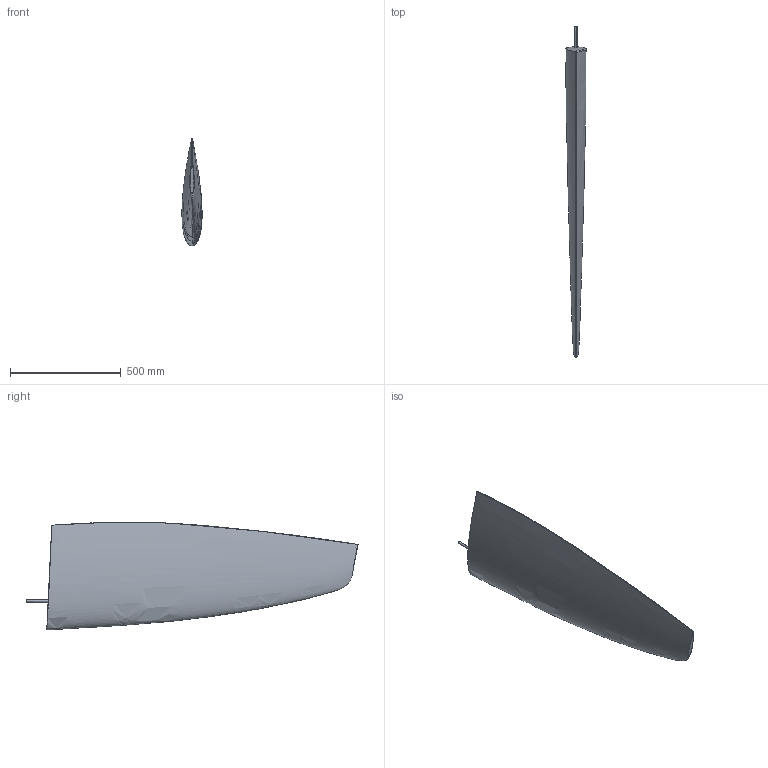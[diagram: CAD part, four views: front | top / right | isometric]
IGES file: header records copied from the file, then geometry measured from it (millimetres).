
Start section: SolidWorks IGES file using analytic representation for surfaces
Global section: file name: J:\Kartotek\Jefa Marine\GRP rudder blade\Jefa rudder blade\Rudderblade RUD30 for 26 to 34ft.IGS; native system: SolidWorks 2008; preprocessor: SolidWorks 2008; author: Klaus Jeppsen; date: 080904.133307; units: millimetre
Bounding box: 90.97 x 1499.34 x 487.17 mm (x, y, z)
Surface area: 1143194 mm2 (no closed solid volume)
Topology: 0 solids, 0 shells, 12 faces, 422 edges, 422 vertices
Faces by surface type: bspline 10, revolution 2
